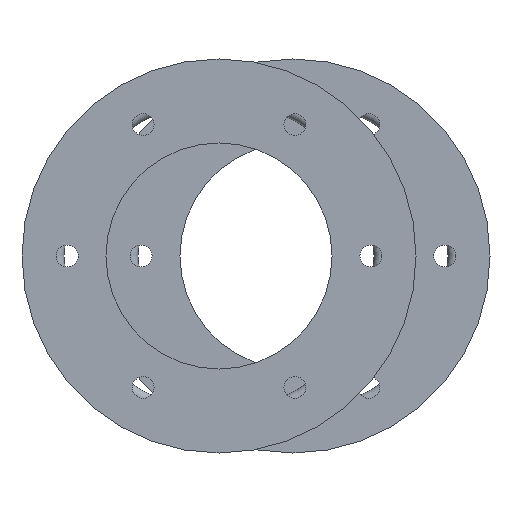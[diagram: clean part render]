
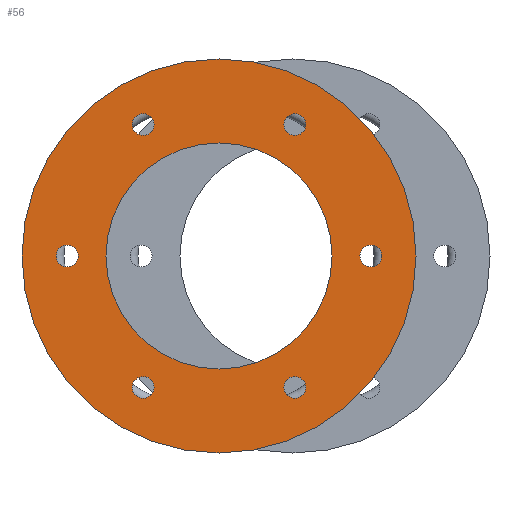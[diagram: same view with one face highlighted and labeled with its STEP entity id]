
A CAD part, left-side view. The second image highlights one B-rep face of the part: STEP entity #56.
In plain terms, the highlighted planar face has unit normal (-1, 0, 0).
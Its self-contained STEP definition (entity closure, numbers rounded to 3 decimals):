
#56 = ADVANCED_FACE( 'NONE', ( #105, #106, #107, #108, #109, #110, #111, #112 ), #113, .F. );
#105 = FACE_OUTER_BOUND( '', #175, .T. );
#106 = FACE_BOUND( '', #176, .T. );
#107 = FACE_BOUND( '', #177, .T. );
#108 = FACE_BOUND( '', #178, .T. );
#109 = FACE_BOUND( '', #179, .T. );
#110 = FACE_BOUND( '', #180, .T. );
#111 = FACE_BOUND( '', #181, .T. );
#112 = FACE_BOUND( '', #182, .T. );
#113 = PLANE( '', #183 );
#175 = EDGE_LOOP( '', ( #277 ) );
#176 = EDGE_LOOP( '', ( #278 ) );
#177 = EDGE_LOOP( '', ( #279 ) );
#178 = EDGE_LOOP( '', ( #280 ) );
#179 = EDGE_LOOP( '', ( #281 ) );
#180 = EDGE_LOOP( '', ( #282 ) );
#181 = EDGE_LOOP( '', ( #283 ) );
#182 = EDGE_LOOP( '', ( #284 ) );
#183 = AXIS2_PLACEMENT_3D( '', #285, #286, #287 );
#277 = ORIENTED_EDGE( '', *, *, #451, .T. );
#278 = ORIENTED_EDGE( '', *, *, #452, .F. );
#279 = ORIENTED_EDGE( '', *, *, #453, .F. );
#280 = ORIENTED_EDGE( '', *, *, #454, .F. );
#281 = ORIENTED_EDGE( '', *, *, #445, .F. );
#282 = ORIENTED_EDGE( '', *, *, #455, .F. );
#283 = ORIENTED_EDGE( '', *, *, #456, .F. );
#284 = ORIENTED_EDGE( '', *, *, #448, .F. );
#285 = CARTESIAN_POINT( '', ( 0., 35., 0. ) );
#286 = DIRECTION( '', ( 1., 0., 0. ) );
#287 = DIRECTION( '', ( 0., 1., 0. ) );
#445 = EDGE_CURVE( 'NONE', #579, #579, #580, .T. );
#448 = EDGE_CURVE( 'NONE', #584, #584, #585, .T. );
#451 = EDGE_CURVE( 'NONE', #589, #589, #590, .T. );
#452 = EDGE_CURVE( 'NONE', #591, #591, #592, .T. );
#453 = EDGE_CURVE( 'NONE', #593, #593, #594, .T. );
#454 = EDGE_CURVE( 'NONE', #595, #595, #596, .T. );
#455 = EDGE_CURVE( 'NONE', #597, #597, #598, .T. );
#456 = EDGE_CURVE( 'NONE', #599, #599, #600, .T. );
#579 = VERTEX_POINT( '', #801 );
#580 = CIRCLE( '', #802, 3.4 );
#584 = VERTEX_POINT( '', #806 );
#585 = CIRCLE( '', #807, 3.4 );
#589 = VERTEX_POINT( '', #811 );
#590 = CIRCLE( '', #812, 61. );
#591 = VERTEX_POINT( '', #813 );
#592 = CIRCLE( '', #814, 3.4 );
#593 = VERTEX_POINT( '', #815 );
#594 = CIRCLE( '', #816, 3.4 );
#595 = VERTEX_POINT( '', #817 );
#596 = CIRCLE( '', #818, 3.4 );
#597 = VERTEX_POINT( '', #819 );
#598 = CIRCLE( '', #820, 35. );
#599 = VERTEX_POINT( '', #821 );
#600 = CIRCLE( '', #822, 3.4 );
#801 = CARTESIAN_POINT( '', ( 0., 47., 3.4 ) );
#802 = AXIS2_PLACEMENT_3D( '', #878, #879, #880 );
#806 = CARTESIAN_POINT( '', ( 0., 23.5, 44.103 ) );
#807 = AXIS2_PLACEMENT_3D( '', #884, #885, #886 );
#811 = CARTESIAN_POINT( '', ( 0., 0., 61. ) );
#812 = AXIS2_PLACEMENT_3D( '', #890, #891, #892 );
#813 = CARTESIAN_POINT( '', ( 0., -23.5, 44.103 ) );
#814 = AXIS2_PLACEMENT_3D( '', #893, #894, #895 );
#815 = CARTESIAN_POINT( '', ( 0., -23.5, -37.303 ) );
#816 = AXIS2_PLACEMENT_3D( '', #896, #897, #898 );
#817 = CARTESIAN_POINT( '', ( 0., 23.5, -37.303 ) );
#818 = AXIS2_PLACEMENT_3D( '', #899, #900, #901 );
#819 = CARTESIAN_POINT( '', ( 0., 0., 35. ) );
#820 = AXIS2_PLACEMENT_3D( '', #902, #903, #904 );
#821 = CARTESIAN_POINT( '', ( 0., -47., 3.4 ) );
#822 = AXIS2_PLACEMENT_3D( '', #905, #906, #907 );
#878 = CARTESIAN_POINT( '', ( 0., 47., 0. ) );
#879 = DIRECTION( '', ( -1., 0., 0. ) );
#880 = DIRECTION( '', ( 0., 0., 1. ) );
#884 = CARTESIAN_POINT( '', ( 0., 23.5, 40.703 ) );
#885 = DIRECTION( '', ( -1., 0., 0. ) );
#886 = DIRECTION( '', ( 0., 0., 1. ) );
#890 = CARTESIAN_POINT( '', ( 0., 0., 0. ) );
#891 = DIRECTION( '', ( -1., 0., 0. ) );
#892 = DIRECTION( '', ( 0., 0., 1. ) );
#893 = CARTESIAN_POINT( '', ( 0., -23.5, 40.703 ) );
#894 = DIRECTION( '', ( -1., 0., 0. ) );
#895 = DIRECTION( '', ( 0., 0., 1. ) );
#896 = CARTESIAN_POINT( '', ( 0., -23.5, -40.703 ) );
#897 = DIRECTION( '', ( -1., 0., 0. ) );
#898 = DIRECTION( '', ( 0., 0., 1. ) );
#899 = CARTESIAN_POINT( '', ( 0., 23.5, -40.703 ) );
#900 = DIRECTION( '', ( -1., 0., 0. ) );
#901 = DIRECTION( '', ( 0., 0., 1. ) );
#902 = CARTESIAN_POINT( '', ( 0., 0., 0. ) );
#903 = DIRECTION( '', ( -1., 0., 0. ) );
#904 = DIRECTION( '', ( 0., 0., 1. ) );
#905 = CARTESIAN_POINT( '', ( 0., -47., 0. ) );
#906 = DIRECTION( '', ( -1., 0., 0. ) );
#907 = DIRECTION( '', ( 0., 0., 1. ) );
